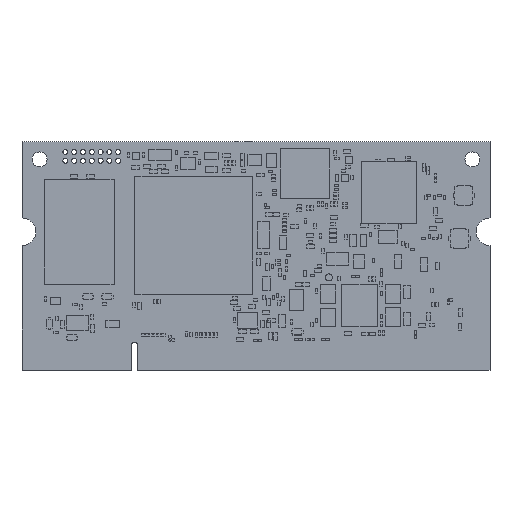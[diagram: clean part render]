
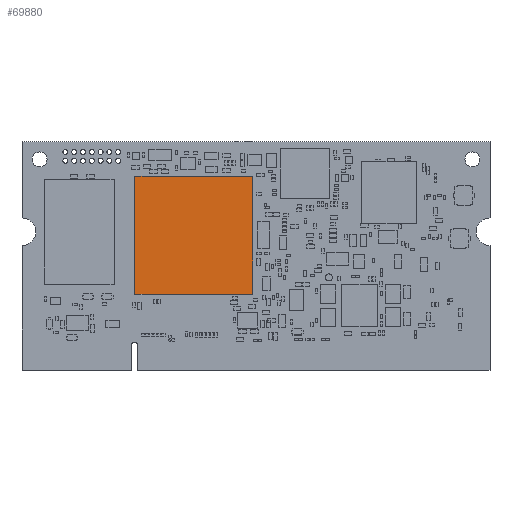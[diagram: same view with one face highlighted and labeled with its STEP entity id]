
A CAD part, top view. The second image highlights one B-rep face of the part: STEP entity #69880.
In plain terms, the highlighted planar face has unit normal (0, 0, 1).
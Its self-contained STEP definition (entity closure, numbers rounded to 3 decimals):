
#9064=PLANE('',#82645);
#13227=FACE_OUTER_BOUND('',#17423,.T.);
#17423=EDGE_LOOP('',(#64156,#64157,#64158,#64159));
#25343=LINE('',#120256,#33827);
#25346=LINE('',#120262,#33830);
#25349=LINE('',#120268,#33833);
#25352=LINE('',#120272,#33836);
#33827=VECTOR('',#100075,10.);
#33830=VECTOR('',#100080,10.);
#33833=VECTOR('',#100085,10.);
#33836=VECTOR('',#100090,10.);
#39880=VERTEX_POINT('',#120253);
#39881=VERTEX_POINT('',#120255);
#39883=VERTEX_POINT('',#120261);
#39885=VERTEX_POINT('',#120267);
#48077=EDGE_CURVE('',#39881,#39880,#25343,.T.);
#48080=EDGE_CURVE('',#39883,#39881,#25346,.T.);
#48083=EDGE_CURVE('',#39885,#39883,#25349,.T.);
#48086=EDGE_CURVE('',#39880,#39885,#25352,.T.);
#64156=ORIENTED_EDGE('',*,*,#48086,.T.);
#64157=ORIENTED_EDGE('',*,*,#48083,.T.);
#64158=ORIENTED_EDGE('',*,*,#48080,.T.);
#64159=ORIENTED_EDGE('',*,*,#48077,.T.);
#69880=ADVANCED_FACE('',(#13227),#9064,.T.);
#82645=AXIS2_PLACEMENT_3D('',#120273,#100091,#100092);
#100075=DIRECTION('',(1.,0.,0.));
#100080=DIRECTION('',(0.,-1.,0.));
#100085=DIRECTION('',(-1.,0.,0.));
#100090=DIRECTION('',(0.,1.,0.));
#100091=DIRECTION('center_axis',(0.,0.,1.));
#100092=DIRECTION('ref_axis',(1.,0.,0.));
#120253=CARTESIAN_POINT('',(8.509,-8.509,2.515));
#120255=CARTESIAN_POINT('',(-8.509,-8.509,2.515));
#120256=CARTESIAN_POINT('',(8.509,-8.509,2.515));
#120261=CARTESIAN_POINT('',(-8.509,8.509,2.515));
#120262=CARTESIAN_POINT('',(-8.509,-8.509,2.515));
#120267=CARTESIAN_POINT('',(8.509,8.509,2.515));
#120268=CARTESIAN_POINT('',(-8.509,8.509,2.515));
#120272=CARTESIAN_POINT('',(8.509,8.509,2.515));
#120273=CARTESIAN_POINT('Origin',(0.,0.,2.515));
